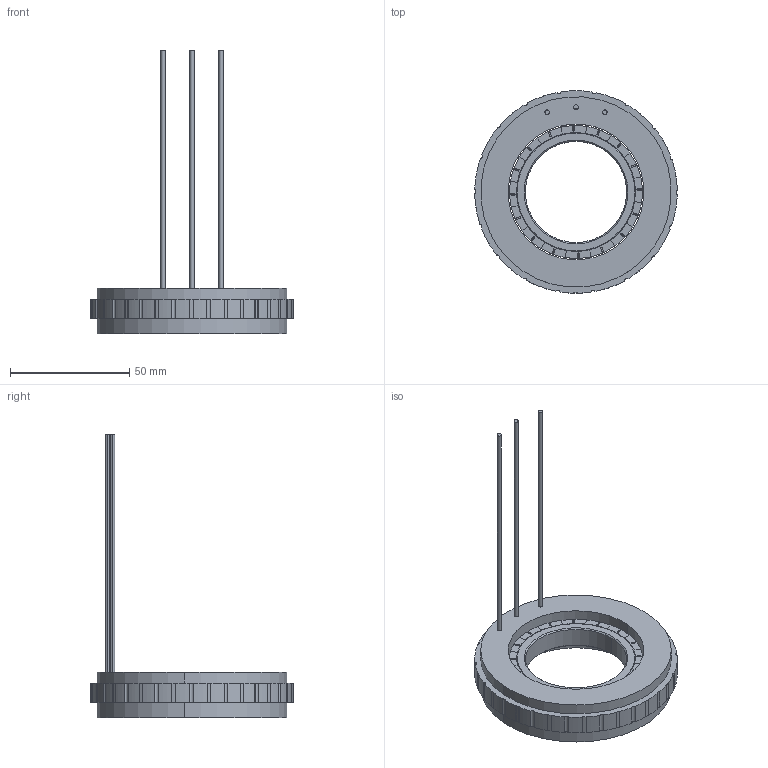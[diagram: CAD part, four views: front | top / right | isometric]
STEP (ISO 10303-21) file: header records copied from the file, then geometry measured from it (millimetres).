
FILE_DESCRIPTION (( 'STEP AP203' ), '1' );
FILE_NAME ('307090727SS 无框力矩电机（FMC08508-0031-3042N-8DS00）-V1.0.STEP', '2025-07-23T02:09:10', ( '' ), ( '' ), 'SwSTEP 2.0', 'SolidWorks 2023', '' );
FILE_SCHEMA (( 'CONFIG_CONTROL_DESIGN' ));
Length unit declared in the file: millimetre
Products named in the file (1): 307090727SS 无框力矩电机（FMC08508-0031-3042N-8DS00）-V1.0
Bounding box: 84.99 x 84.99 x 119 mm (x, y, z)
Volume: 62062.3 mm3; surface area: 24803.1 mm2
Topology: 21 solids, 21 shells, 880 faces, 2404 edges, 1600 vertices
Faces by surface type: plane 368, bspline 368, cylinder 136, cone 8
Entity records: 52437 total; most frequent: CARTESIAN_POINT 32909, ORIENTED_EDGE 4808, DIRECTION 2702, EDGE_CURVE 2404, VERTEX_POINT 1600, VECTOR 1084, LINE 1084, B_SPLINE_CURVE_WITH_KNOTS 1024
